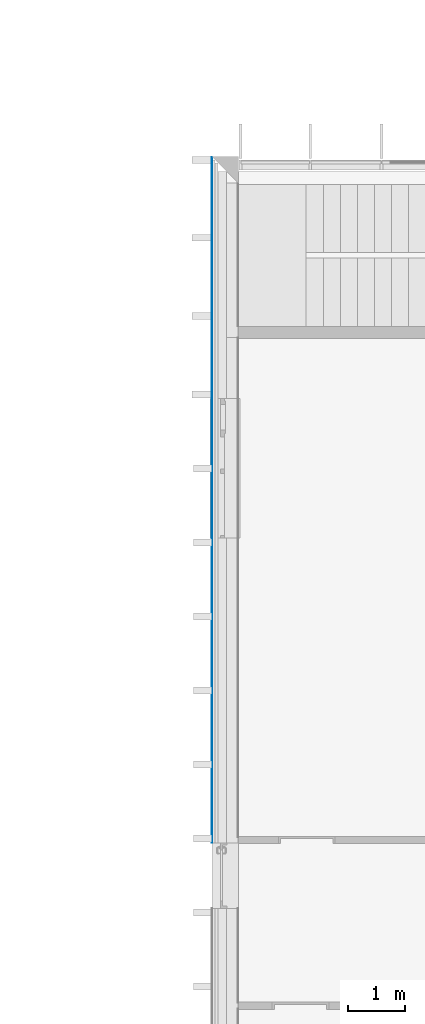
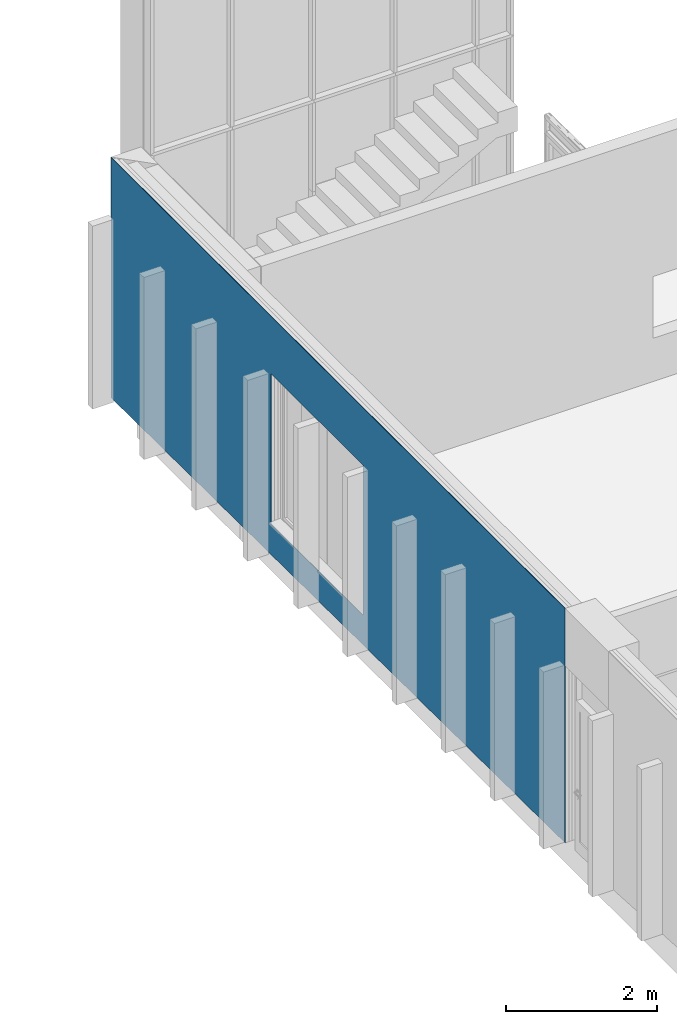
# One storey, part 64 of 65: 1 building element part, 1 opening, 1 element without a shape of its own.
"""IFC2X3 building model written with IfcOpenShell, lengths in millimetres."""

import ifcopenshell
import ifcopenshell.guid

model = None  # the IFC model being written
_history = None  # IfcOwnerHistory: only IFC2X3 demands one
_inside = {}  # id of a spatial element -> (the spatial element, [elements in it])
_under = {}  # id of a project, library or spatial element -> (it, [spatial elements below it])
_declared = {}  # id of a project -> (the project, [libraries it declares])
_typed = {}  # id of a type object -> (the type object, [elements of that type])
_made_of = {}  # id of a material, layer set ... -> (it, [elements and type objects made of it])


def new_model(schema):
    """Start an empty IFC model of exactly this schema.

    Asked for "IFC4X3", IfcOpenShell would pick the latest addendum, in which some entities
    have other attributes; the version numbers below select the first issue.
    IFC2X3 requires an IfcOwnerHistory on every rooted entity: one is made here for all.
    """
    global model, _history
    if schema == "IFC4X3":
        model = ifcopenshell.file(schema_version=(4, 3, 0, 0))
    else:
        model = ifcopenshell.file(schema=schema)
    _inside.clear()
    _under.clear()
    _declared.clear()
    _typed.clear()
    _made_of.clear()
    _history = None
    if model.schema == "IFC2X3":
        org = make("IfcOrganization", Name="unknown")
        user = make(
            "IfcPersonAndOrganization",
            ThePerson=make("IfcPerson", FamilyName="unknown"),
            TheOrganization=org,
        )
        app = make(
            "IfcApplication",
            ApplicationDeveloper=org,
            Version="unknown",
            ApplicationFullName="unknown",
            ApplicationIdentifier="unknown",
        )
        _history = make(
            "IfcOwnerHistory",
            OwningUser=user,
            OwningApplication=app,
            ChangeAction="ADDED",
            CreationDate=0,
        )
    return model


def make(cls, **values):
    """One entity of the class cls with the attributes given. An attribute that is None is left unset."""
    return model.create_entity(
        cls, **{name: value for name, value in values.items() if value is not None}
    )


def entity(cls, *values):
    """Any entity or typed value of the class cls, its attributes in the order of the schema. None: left unset."""
    e = model.create_entity(cls)
    for i, value in enumerate(values):
        if value is not None:
            e[i] = value
    return e


def rooted(cls, **values):
    """An entity with a GlobalId (a new one), such as an element, a storey or a relation."""
    return make(cls, GlobalId=ifcopenshell.guid.new(), OwnerHistory=_history, **values)


def si_unit(unit_type, name, prefix=None):
    """IfcSIUnit, for example si_unit("LENGTHUNIT", "METRE", prefix="MILLI")."""
    return make("IfcSIUnit", UnitType=unit_type, Prefix=prefix, Name=name)


def converted_unit(unit_type, name, factor, base, dimensions=None, offset=None):
    """IfcConversionBasedUnit, such as the inch: factor (a typed value) times the base unit."""
    return make(
        "IfcConversionBasedUnit"
        if offset is None
        else "IfcConversionBasedUnitWithOffset",
        ConversionOffset=offset,
        Dimensions=None
        if dimensions is None
        else entity("IfcDimensionalExponents", *dimensions),
        UnitType=unit_type,
        Name=name,
        ConversionFactor=make(
            "IfcMeasureWithUnit", ValueComponent=factor, UnitComponent=base
        ),
    )


def derived_unit(unit_type, elements):
    """IfcDerivedUnit: a product of units, each with its exponent."""
    return make(
        "IfcDerivedUnit",
        Elements=[
            make("IfcDerivedUnitElement", Unit=unit, Exponent=power)
            for unit, power in elements
        ],
        UnitType=unit_type,
    )


def money_unit(currency):
    """IfcMonetaryUnit."""
    return make("IfcMonetaryUnit", Currency=currency)


def assignment(units):
    """IfcUnitAssignment: the units of a project."""
    return None if units is None else make("IfcUnitAssignment", Units=units)


def point(xyz):
    """IfcCartesianPoint."""
    return None if xyz is None else make("IfcCartesianPoint", Coordinates=xyz)


def direction(xyz):
    """IfcDirection."""
    return None if xyz is None else make("IfcDirection", DirectionRatios=xyz)


def frame(location, z_axis=None, x_axis=None):
    """IfcAxis2Placement3D, a coordinate frame: its origin and axes. An axis left out is left unset."""
    return make(
        "IfcAxis2Placement3D",
        Location=point(location),
        Axis=direction(z_axis),
        RefDirection=direction(x_axis),
    )


def frame_2d(location, x_axis=None):
    """IfcAxis2Placement2D, a coordinate frame in the plane: its origin and x axis."""
    return make(
        "IfcAxis2Placement2D", Location=point(location), RefDirection=direction(x_axis)
    )


def origin_with_axes():
    """The frame at (0, 0, 0) with the z axis (0, 0, 1) and the x axis (1, 0, 0) written out."""
    return frame((0.0, 0.0, 0.0), z_axis=(0.0, 0.0, 1.0), x_axis=(1.0, 0.0, 0.0))


def origin_2d_with_axis():
    """The frame at (0, 0) in the plane with the x axis (1, 0) written out."""
    return frame_2d((0.0, 0.0), x_axis=(1.0, 0.0))


def place(relative_to, where):
    """IfcLocalPlacement: puts the frame where relative to a parent placement (None: the world)."""
    return make(
        "IfcLocalPlacement", PlacementRelTo=relative_to, RelativePlacement=where
    )


def context(
    kind, dimensions, precision=None, world=None, true_north=None, identifier=None
):
    """IfcGeometricRepresentationContext, for example the 3D "Model" context."""
    return make(
        "IfcGeometricRepresentationContext",
        ContextIdentifier=identifier,
        ContextType=kind,
        CoordinateSpaceDimension=dimensions,
        Precision=precision,
        WorldCoordinateSystem=world,
        TrueNorth=true_north,
    )


def subcontext(parent, identifier, kind, view, scale=None):
    """IfcGeometricRepresentationSubContext, for example "Body" below "Model"."""
    return make(
        "IfcGeometricRepresentationSubContext",
        ContextIdentifier=identifier,
        ContextType=kind,
        ParentContext=parent,
        TargetScale=scale,
        TargetView=view,
    )


def project(units=None, contexts=None):
    """IfcProject with its units and contexts."""
    return rooted(
        "IfcProject",
        Name="project",
        RepresentationContexts=contexts,
        UnitsInContext=assignment(units),
    )


def spatial(cls, under=None, at=None, **own):
    """A site, building, storey or space (cls), placed at a placement, below another one or the project."""
    s = rooted(cls, ObjectPlacement=at, **own)
    if under is not None:
        _under.setdefault(under.id(), (under, []))[1].append(s)
    return s


def polyline(points):
    """IfcPolyline through the points."""
    return make("IfcPolyline", Points=[point(p) for p in points])


def profile(cls, at=None, kind="AREA", **sizes):
    """A parametric profile (cls). Its sizes go by their IFC names, for example OverallWidth=200.0."""
    return make(cls, ProfileType=kind, Position=at, **sizes)


def rectangle(**sizes):
    """IfcRectangleProfileDef."""
    return profile("IfcRectangleProfileDef", **sizes)


def outline(outer, holes=None, kind="AREA"):
    """IfcArbitraryClosedProfileDef: a profile drawn as a closed curve; with holes, ...WithVoids."""
    if holes is None:
        return make("IfcArbitraryClosedProfileDef", ProfileType=kind, OuterCurve=outer)
    return make(
        "IfcArbitraryProfileDefWithVoids",
        ProfileType=kind,
        OuterCurve=outer,
        InnerCurves=holes,
    )


def extrude(swept, where, along, depth):
    """IfcExtrudedAreaSolid: the profile swept, set in the frame where, extruded along a direction by depth."""
    return make(
        "IfcExtrudedAreaSolid",
        SweptArea=swept,
        Position=where,
        ExtrudedDirection=direction(along),
        Depth=depth,
    )


def boolean(op, a, b):
    """IfcBooleanResult of two solids."""
    return make("IfcBooleanResult", Operator=op, FirstOperand=a, SecondOperand=b)


def faces_of(points, faces, orient=None, outer=None):
    """IfcFace entities. A face is a list of loops; a loop is a list of indices into points, from 0.

    orient and outer hold one flag for each loop. By default every Orientation is true, the
    first loop of a face is its IfcFaceOuterBound and the others are IfcFaceBound.
    """
    made = []
    for i, loops in enumerate(faces):
        bounds = []
        for j, loop in enumerate(loops):
            is_outer = j == 0 if outer is None else outer[i][j]
            bounds.append(
                make(
                    "IfcFaceOuterBound" if is_outer else "IfcFaceBound",
                    Bound=make("IfcPolyLoop", Polygon=[points[k] for k in loop]),
                    Orientation=True if orient is None else orient[i][j],
                )
            )
        made.append(make("IfcFace", Bounds=bounds))
    return made


def faceted_brep(points, faces, orient=None, outer=None, voids=None):
    """IfcFacetedBrep: a solid bounded by flat faces; with voids (closed shells), ...WithVoids."""
    shared = [point(p) for p in points]
    hull = make("IfcClosedShell", CfsFaces=faces_of(shared, faces, orient, outer))
    if voids is None:
        return make("IfcFacetedBrep", Outer=hull)
    return make(
        "IfcFacetedBrepWithVoids",
        Outer=hull,
        Voids=[
            make(cls, CfsFaces=faces_of(shared, fs, o, b)) for cls, fs, o, b in voids
        ],
    )


def shape(context_of_items, identifier, shape_type, items):
    """IfcShapeRepresentation: the items that make up one representation, for example the "Body"."""
    return make(
        "IfcShapeRepresentation",
        ContextOfItems=context_of_items,
        RepresentationIdentifier=identifier,
        RepresentationType=shape_type,
        Items=items,
    )


def material(Name=None, Category=None):
    """IfcMaterial."""
    return make("IfcMaterial", Name=Name, Category=Category)


def made_of(thing, what):
    """Note that an element or type object is made of a material, layer set ...; save() writes the relation."""
    if what is not None:
        _made_of.setdefault(what.id(), (what, []))[1].append(thing)
    return thing


def type_object(cls, material=None, **own):
    """A type object (cls), such as IfcWallType, which elements share."""
    return made_of(rooted(cls, **own), material)


def element(
    cls,
    number,
    at=None,
    inside=None,
    cuts=None,
    type_object=None,
    material=None,
    context=None,
    identifier="Body",
    shape_type=None,
    held_by="IfcProductDefinitionShape",
    body=None,
    shapes=None,
    **own,
):
    """One element of the class cls, such as IfcWall. Its Tag is "e" and its number.

    at: its placement. inside: the storey or other place that contains it. cuts: it is an
    opening in that element (IfcRelVoidsElement). A single representation is given by context,
    identifier, shape_type and body (its items); several are given by shapes. held_by: the class
    of the entity that holds the representations. save() writes the other relations.
    """
    e = rooted(cls, Tag="e%d" % number, ObjectPlacement=at, **own)
    if body is not None:
        shapes = [shape(context, identifier, shape_type, body)]
    if shapes is not None:
        e.Representation = make(held_by, Representations=shapes)
    if inside is not None:
        _inside.setdefault(inside.id(), (inside, []))[1].append(e)
    if cuts is not None:
        rooted(
            "IfcRelVoidsElement", RelatingBuildingElement=cuts, RelatedOpeningElement=e
        )
    if type_object is not None:
        _typed.setdefault(type_object.id(), (type_object, []))[1].append(e)
    return made_of(e, material)


def aggregate(whole, parts):
    """IfcRelAggregates: a whole, such as a stair, and the parts it consists of."""
    return rooted("IfcRelAggregates", RelatingObject=whole, RelatedObjects=parts)


def save(model, path):
    """Write the relations noted so far, then the file.

    IfcRelAggregates (storeys below a building ...), IfcRelContainedInSpatialStructure (elements
    in a storey), IfcRelDefinesByType, IfcRelAssociatesMaterial and IfcRelDeclares: one each for
    every whole, place, type object, material and project.
    """
    for whole, parts in _under.values():
        aggregate(whole, parts)
    for where, things in _inside.values():
        rooted(
            "IfcRelContainedInSpatialStructure",
            RelatedElements=things,
            RelatingStructure=where,
        )
    for kind, things in _typed.values():
        rooted("IfcRelDefinesByType", RelatedObjects=things, RelatingType=kind)
    for what, things in _made_of.values():
        rooted("IfcRelAssociatesMaterial", RelatedObjects=things, RelatingMaterial=what)
    for by, libraries in _declared.values():
        rooted("IfcRelDeclares", RelatingContext=by, RelatedDefinitions=libraries)
    model.write(path)


model = new_model("IFC2X3")

# Units and contexts
model_context = context("Model", 3, precision=0.01, world=origin_with_axes(), true_north=direction((0.0, 1.0)))
body_context = subcontext(model_context, "Body", "Model", "MODEL_VIEW")
ifc_project = project(units=[si_unit("LENGTHUNIT", "METRE", prefix="MILLI"), si_unit("AREAUNIT", "SQUARE_METRE"), si_unit("VOLUMEUNIT", "CUBIC_METRE"), converted_unit("PLANEANGLEUNIT", "DEGREE", entity("IfcPlaneAngleMeasure", 0.0174532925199), si_unit("PLANEANGLEUNIT", "RADIAN"), dimensions=[0, 0, 0, 0, 0, 0, 0]), si_unit("SOLIDANGLEUNIT", "STERADIAN"), money_unit("EUR"), converted_unit("TIMEUNIT", "Year", entity("IfcTimeMeasure", 31556926.0), si_unit("TIMEUNIT", "SECOND"), dimensions=[0, 0, 1, 0, 0, 0, 0]), si_unit("MASSUNIT", "GRAM", prefix="KILO"), si_unit("THERMODYNAMICTEMPERATUREUNIT", "DEGREE_CELSIUS"), si_unit("LUMINOUSINTENSITYUNIT", "LUMEN"), si_unit("ENERGYUNIT", "JOULE", prefix="MEGA"), derived_unit("THERMALCONDUCTANCEUNIT", [(si_unit("POWERUNIT", "WATT"), 1), (si_unit("LENGTHUNIT", "METRE"), -1), (si_unit("THERMODYNAMICTEMPERATUREUNIT", "KELVIN"), -1)]), derived_unit("SPECIFICHEATCAPACITYUNIT", [(si_unit("ENERGYUNIT", "JOULE"), 1), (si_unit("MASSUNIT", "GRAM", prefix="KILO"), -1), (si_unit("THERMODYNAMICTEMPERATUREUNIT", "KELVIN"), -1)]), derived_unit("MASSDENSITYUNIT", [(si_unit("MASSUNIT", "GRAM", prefix="KILO"), 1), (si_unit("VOLUMEUNIT", "CUBIC_METRE"), -1)])], contexts=[model_context])

# Site, building, storey
site_placement = place(None, origin_with_axes())
site = spatial("IfcSite", under=ifc_project, at=site_placement, Name="Puškini 31, Narva", CompositionType="ELEMENT")
building_placement = place(site_placement, origin_with_axes())
building = spatial("IfcBuilding", under=site, at=building_placement, Name="Narva Riigigümnaasium", CompositionType="ELEMENT")
storey_placement = place(building_placement, frame((0.0, 0.0, -1320.0), z_axis=(0.0, 0.0, 1.0), x_axis=(1.0, 0.0, 0.0)))
storey = spatial("IfcBuildingStorey", under=building, at=storey_placement, Name="1.korrus -1.32", CompositionType="ELEMENT", Elevation=-1320.0)

# Wall, opening, building element part
wall_type = type_object("IfcWallType", Name="G-VS-01 468", PredefinedType="NOTDEFINED")
wall_placement = place(storey_placement, frame((22399.9999985, 183110.149991, 0.0), z_axis=(0.0, 0.0, 1.0), x_axis=(0.0, 1.0, 0.0)))
wall = element("IfcWall", 1, at=wall_placement, inside=storey, type_object=wall_type, Name="Välissein")
opening_placement = place(wall_placement, frame((6575.0, 0.0, 600.0), z_axis=(0.0, 0.0, 1.0), x_axis=(1.0, 0.0, 0.0)))
element("IfcOpeningElement", 2, at=opening_placement, cuts=wall, Name="G-A-37", context=body_context, shape_type="SweptSolid", body=[
    extrude(rectangle(XDim=2450.0, YDim=2430.0, at=origin_2d_with_axis()), frame((0.0, 308.0, 1215.0), z_axis=(0.0, 1.0, 0.0), x_axis=(-1.0, 0.0, 0.0)), (0.0, 0.0, -1.0), 786.0),
    extrude(rectangle(XDim=2450.0, YDim=2430.0, at=origin_2d_with_axis()), frame((0.0, 308.0, 1215.0), z_axis=(0.0, -1.0, 0.0), x_axis=(-1.0, 0.0, 0.0)), (0.0, 0.0, -1.0), 618.0),
])
ifc_material = material(Name="fassaadiplaat")
building_element_part_placement = place(wall_placement, origin_with_axes())
building_element_part = element("IfcBuildingElementPart", 3, at=building_element_part_placement, material=ifc_material, Name="fassaadiplaat", context=body_context, shape_type="CSG", body=[
    boolean("DIFFERENCE", boolean("DIFFERENCE", boolean("DIFFERENCE", boolean("DIFFERENCE", boolean("DIFFERENCE", boolean("DIFFERENCE", boolean("DIFFERENCE", extrude(outline(polyline([(0.0, 450.0), (12047.8500085, 450.0), (12047.8500085, 458.0), (0.0, 458.0), (0.0, 450.0)])), origin_with_axes(), (0.0, 0.0, 1.0), 3960.0), faceted_brep([(11579.8500085, 1.96511962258e-06, 73.9043257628), (11579.8500085, 0.0, 3960.0), (12047.8500085, 0.0, 3960.0), (12047.8500085, 0.0, 0.0), (0.0, 0.0, 0.0), (0.0, 0.0, 3960.0), (9069.85000856, 0.0, 3960.0), (9069.85000856, 1.50284762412e-06, 93.7241299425), (100.0, 8.56701376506e-08, 164.553082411), (8869.85000856, 1.46910750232e-06, 95.3033972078), (8869.85000856, 1.53953294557e-07, 3555.0), (100.0, 1.50116008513e-06, 3555.0), (11579.8500085, -10.0, 73.9043257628), (11579.8500085, -10.0, 3960.0), (12047.8500085, -10.0, 3960.0), (12047.8500085, -10.0, 0.0), (0.0, -10.0, 0.0), (0.0, -10.0, 3960.0), (9069.85000856, -10.0, 3960.0), (9069.85000856, -10.0, 93.7241299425), (100.0, -10.0, 164.553082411), (8869.85000856, -10.0, 95.3033972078), (8869.85000856, -10.0, 3555.0), (100.0, -10.0, 3555.0)], [[[0, 1, 2, 3, 4, 5, 6, 7], [8, 9, 10, 11]], [[12, 13, 1, 0]], [[1, 13, 14, 2]], [[14, 15, 3, 2]], [[15, 16, 4, 3]], [[5, 4, 16, 17]], [[18, 6, 5, 17]], [[6, 18, 19, 7]], [[19, 12, 0, 7]], [[20, 21, 9, 8]], [[21, 22, 10, 9]], [[22, 23, 11, 10]], [[23, 20, 8, 11]], [[19, 18, 17, 16, 15, 14, 13, 12], [20, 23, 22, 21]]])), faceted_brep([(0.0, 0.0, 3555.0), (8869.85000856, 1.53953294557e-07, 3555.0), (8869.85000856, 0.0, 3959.99999949), (0.0, 0.0, 3960.0), (0.0, 199.999955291, 3555.0), (8869.85000856, 199.999955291, 3555.0), (8869.85000856, 199.999955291, 3960.0), (0.0, 200.0, 3960.0)], [[[0, 1, 2, 3]], [[0, 4, 5, 1]], [[6, 2, 1, 5]], [[2, 6, 7, 3]], [[4, 0, 3, 7]], [[5, 4, 7, 6]]])), faceted_brep([(11589.8500085, 200.0, 3960.0), (11589.8500085, 0.0, 3960.0), (12047.8500085, 0.0, 3960.0), (12047.8500085, 200.0, 3960.0), (11589.8500085, 1.96515870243e-06, 73.8253623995), (11589.8500085, 199.999999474, 73.8253623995), (100.0, 8.56701376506e-08, 164.553082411), (0.0, 0.0, 165.342716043), (0.0, 0.0, 0.0), (12047.8500085, 0.0, 0.0), (11579.8500085, 1.96511962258e-06, 73.9043257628), (9069.85000856, 1.50284762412e-06, 93.7241299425), (8869.85000856, 1.46910750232e-06, 95.3033972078), (12047.8500085, 200.0, 0.0), (0.0, 200.0, 0.0), (0.0, 199.999997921, 165.342716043)], [[[0, 1, 2, 3]], [[4, 1, 0, 5]], [[6, 7, 8, 9, 2, 1, 4, 10, 11, 12]], [[2, 9, 13, 3]], [[5, 0, 3, 13, 14, 15]], [[10, 4, 5, 15, 7, 6, 12, 11]], [[7, 15, 14, 8]], [[9, 8, 14, 13]]])), faceted_brep([(11789.8500085, 350.0, 3960.0), (11789.8500085, 200.0, 3960.0), (12047.8500085, 200.0, 3960.0), (12047.8500085, 350.0, 3960.0), (11789.8500085, 199.999999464, 72.2460951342), (11789.8500085, 350.0, 72.2460951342), (11589.8500085, 199.999999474, 73.8253623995), (0.0, 199.999997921, 165.342716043), (0.0, 200.0, 0.0), (12047.8500085, 200.0, 0.0), (12047.8500085, 350.0, 0.0), (0.0, 350.0, 0.0), (0.0, 350.0, 165.342716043)], [[[0, 1, 2, 3]], [[4, 1, 0, 5]], [[6, 7, 8, 9, 2, 1, 4]], [[2, 9, 10, 3]], [[5, 0, 3, 10, 11, 12]], [[6, 4, 5, 12, 7]], [[7, 12, 11, 8]], [[9, 8, 11, 10]]])), faceted_brep([(11939.8500085, 400.0, 3960.0), (11939.8500085, 350.0, 3960.0), (12047.8500085, 350.0, 3960.0), (12047.8500085, 400.0, 3960.0), (11939.8500085, 350.0, 71.0616446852), (11939.8500085, 399.999996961, 71.0616446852), (11789.8500085, 350.0, 72.2460951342), (0.0, 350.0, 165.342716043), (0.0, 350.0, 0.0), (12047.8500085, 350.0, 0.0), (12047.8500085, 400.0, 0.0), (0.0, 400.0, 0.0), (0.0, 400.0, 165.342716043)], [[[0, 1, 2, 3]], [[4, 1, 0, 5]], [[6, 7, 8, 9, 2, 1, 4]], [[2, 9, 10, 3]], [[5, 0, 3, 10, 11, 12]], [[6, 4, 5, 12, 7]], [[7, 12, 11, 8]], [[9, 8, 11, 10]]])), faceted_brep([(11989.8500085, 450.0, 3960.0), (11989.8500085, 400.0, 3960.0), (12047.8500085, 400.0, 3960.0), (12047.8500085, 450.0, 3960.0), (11989.8500085, 399.99999696, 70.6668278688), (11989.8500085, 449.999999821, 70.6668278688), (0.0, 400.0, 165.342716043), (0.0, 400.0, 0.0), (12047.8500085, 400.0, 0.0), (12047.8500085, 450.0, 0.0), (0.0, 450.0, 0.0), (0.0, 450.0, 165.342716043)], [[[0, 1, 2, 3]], [[4, 1, 0, 5]], [[4, 6, 7, 8, 2, 1]], [[2, 8, 9, 3]], [[5, 0, 3, 9, 10, 11]], [[6, 4, 5, 11]], [[6, 11, 10, 7]], [[8, 7, 10, 9]]])), faceted_brep([(12039.8500085, 458.0, 3960.0), (12039.8500085, 450.0, 3960.0), (12047.8500085, 450.0, 3960.0), (12047.8500085, 458.0, 3960.0), (12039.8500085, 449.999999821, 70.2720110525), (12039.8500085, 458.0, 70.2720110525), (0.0, 450.0, 165.342716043), (0.0, 450.0, 0.0), (12047.8500085, 450.0, 0.0), (12047.8500085, 458.0, 0.0), (0.0, 458.0, 0.0), (0.0, 458.0, 165.342716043)], [[[0, 1, 2, 3]], [[4, 1, 0, 5]], [[4, 6, 7, 8, 2, 1]], [[2, 8, 9, 3]], [[5, 0, 3, 9, 10, 11]], [[6, 4, 5, 11]], [[6, 11, 10, 7]], [[8, 7, 10, 9]]])),
])
aggregate(wall, [building_element_part])

save(model, "model.ifc")
